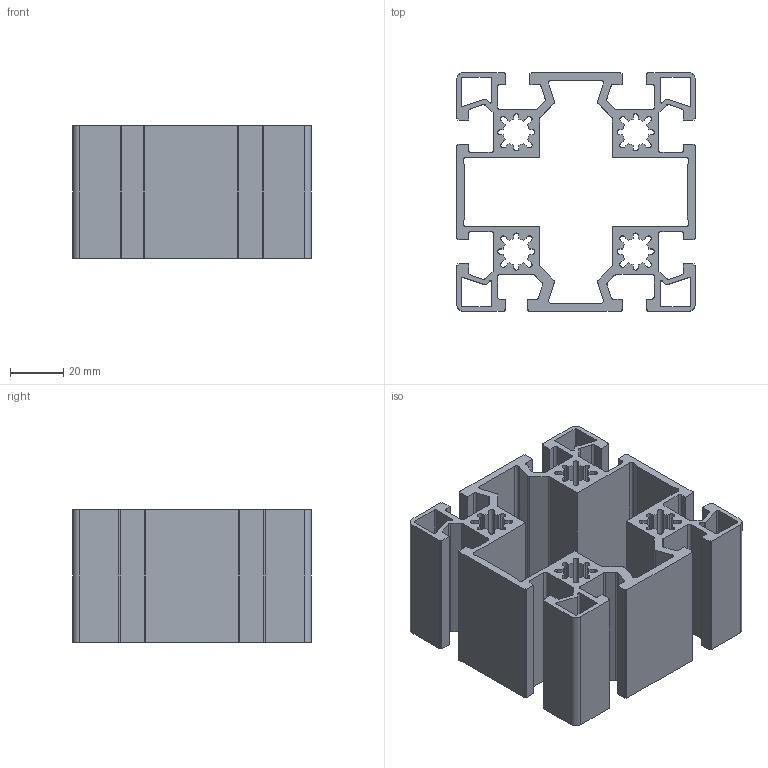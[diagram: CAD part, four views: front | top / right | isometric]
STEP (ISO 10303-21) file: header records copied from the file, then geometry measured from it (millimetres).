
FILE_DESCRIPTION (( 'STEP AP203' ), '1' );
FILE_NAME ('90X90.STEP', '2018-04-06T08:39:04', ( '' ), ( '' ), 'SwSTEP 2.0', 'SolidWorks 2014', '' );
FILE_SCHEMA (( 'CONFIG_CONTROL_DESIGN' ));
Length unit declared in the file: millimetre
Products named in the file (1): 90X90
Bounding box: 90 x 90 x 50 mm (x, y, z)
Volume: 100933.8 mm3; surface area: 76845.7 mm2
Topology: 1 solids, 1 shells, 382 faces, 1140 edges, 760 vertices
Faces by surface type: plane 218, cylinder 164
Entity records: 13005 total; most frequent: CARTESIAN_POINT 2283, ORIENTED_EDGE 2280, DIRECTION 2234, EDGE_CURVE 1140, VECTOR 812, LINE 812, VERTEX_POINT 760, AXIS2_PLACEMENT_3D 711
